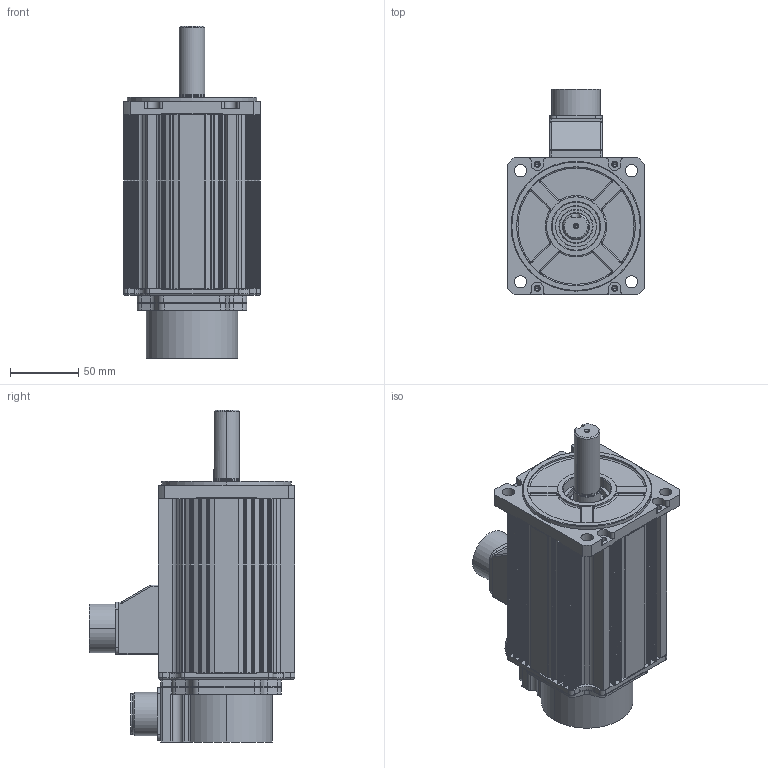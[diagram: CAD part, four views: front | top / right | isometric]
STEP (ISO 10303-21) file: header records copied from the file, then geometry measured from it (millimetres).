
FILE_DESCRIPTION (( 'STEP AP214' ), '1' );
FILE_NAME ('KANS-15B¡à1N2.STEP', '2026-09-12T00:38:22', ( '' ), ( '' ), 'SwSTEP 2.0', 'SolidWorks 2023', '' );
FILE_SCHEMA (( 'AUTOMOTIVE_DESIGN' ));
Length unit declared in the file: millimetre
Products named in the file (10): KANS-15B□1N2; 1006002202 ENCODER COVER; Ø19-KEY6X42; MS3102A 20-29P; □100 BRACKET_BR; MS3102A 20_표준; □100 FLANGE; □100-127mm; 10050579 CONNECTOR BOX_MS20; 10060024(ENCODER COVER ADAPTOR,□100,□120)
Assembly tree (9 placements, depth 2):
  KANS-15B□1N2
    □100-127mm
    □100 FLANGE
    □100 BRACKET_BR
    10060024(ENCODER COVER ADAPTOR,□100,□120)
    1006002202 ENCODER COVER
    MS3102A 20-29P
    10050579 CONNECTOR BOX_MS20
    MS3102A 20_표준
    Ø19-KEY6X42
Bounding box: 100 x 150.55 x 243 mm (x, y, z)
Volume: 450728.4 mm3; surface area: 253627.8 mm2
Topology: 9 solids, 9 shells, 1787 faces, 4924 edges, 3182 vertices
Faces by surface type: plane 794, cylinder 788, torus 74, cone 64, bspline 35, sphere 32
Entity records: 58629 total; most frequent: CARTESIAN_POINT 11693, DIRECTION 10107, ORIENTED_EDGE 9728, EDGE_CURVE 4864, AXIS2_PLACEMENT_3D 3614, VERTEX_POINT 3174, VECTOR 2879, LINE 2879
